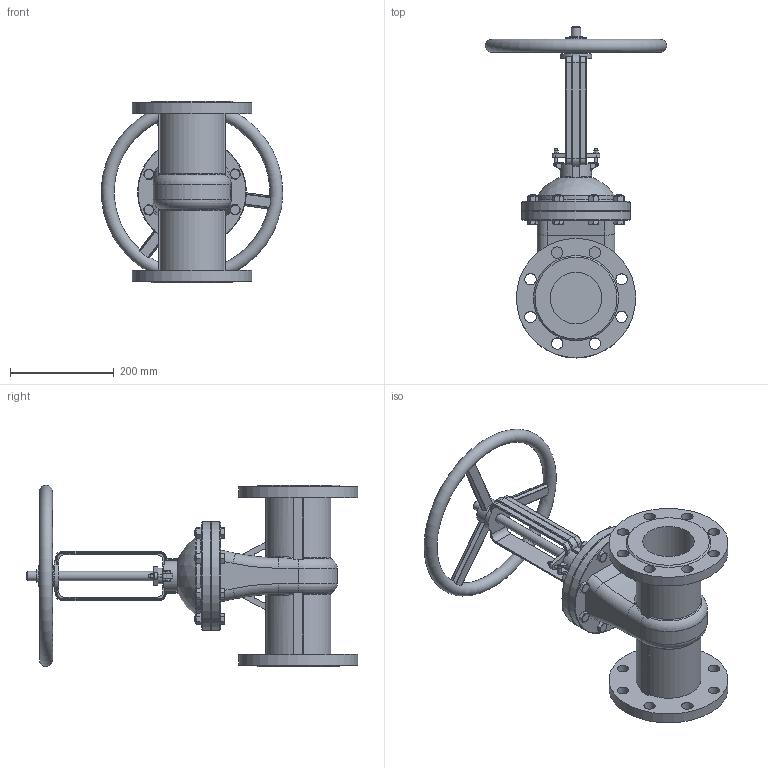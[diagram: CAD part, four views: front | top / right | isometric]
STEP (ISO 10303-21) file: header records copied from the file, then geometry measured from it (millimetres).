
FILE_DESCRIPTION(('STEP AP242'), '1');
FILE_NAME('GVWR3131M-2W-F-S Çàäâèæêà êëèíîâàÿ ñ âûäâèæíûì øòîêîì DN.ru Äó100 Ðó40', '2026-05-30T17:18:40', ('R2D2'), (''), 'C3D Converter', 'C3D Toolkit', '');
FILE_SCHEMA(('AP242_MANAGED_MODEL_BASED_3D_ENGINEERING_MIM_LF { 1 0 10303 442 1 1 4 }'));
Length unit declared in the file: millimetre
Products named in the file (1): GVWR3131M-2W-F-S
Bounding box: 349.59 x 640 x 350 mm (x, y, z)
Volume: 7565164.9 mm3; surface area: 752133.2 mm2
Topology: 1 solids, 1 shells, 857 faces, 2216 edges, 1414 vertices
Faces by surface type: plane 373, cylinder 184, extrusion 100, bspline 69, torus 65, cone 65, sphere 1
Full cylindrical faces by diameter (mm): 3 x3, 5 x4, 8 x2, 12 x16, 18 x2, 20 x1, 22 x16, 25 x1, 30 x1, 40 x2, 50 x1, 60 x1, 100 x2, 150 x2, 210 x2, 230 x2
Entity records: 53355 total; most frequent: CARTESIAN_POINT 27058, ORIENTED_EDGE 4214, DIRECTION 3355, EDGE_CURVE 2107, VERTEX_POINT 1409, AXIS2_PLACEMENT_3D 1198, EDGE_LOOP 1084, VECTOR 959
